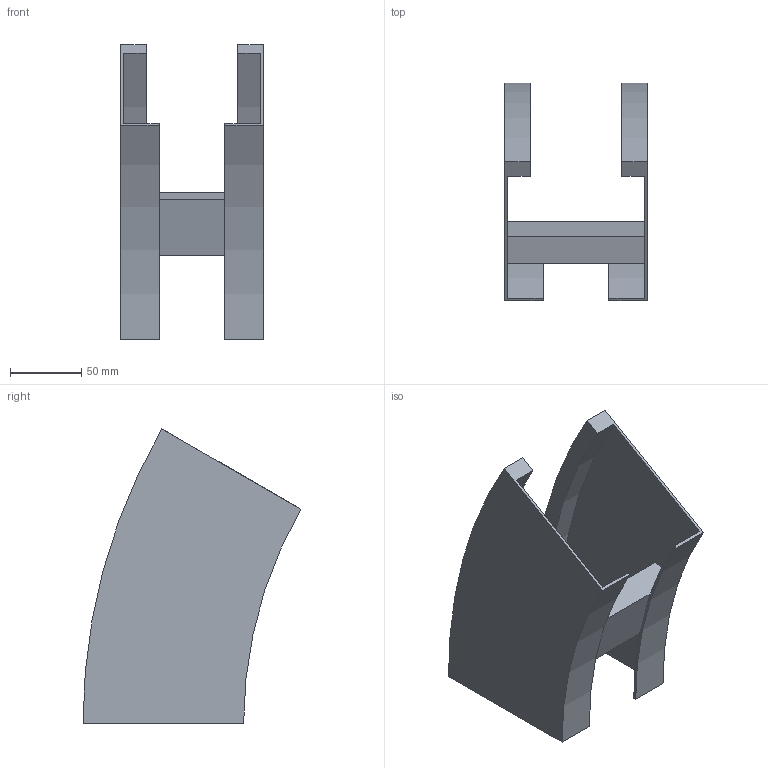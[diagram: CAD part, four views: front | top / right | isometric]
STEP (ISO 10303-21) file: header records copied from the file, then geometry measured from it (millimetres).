
FILE_DESCRIPTION (( 'STEP AP214' ), '1' );
FILE_NAME ('B2_35B3J100.step', '2025-02-21T14:48:24', ( '' ), ( '' ), 'SwSTEP 2.0', 'SolidWorks 2023', '' );
FILE_SCHEMA (( 'AUTOMOTIVE_DESIGN' ));
Length unit declared in the file: millimetre
Products named in the file (3): TRAVERSINO_100; B2_35B3J100; B2_LONGH.DISCESA_30°_H112.5_R300
Assembly tree (3 placements, depth 2):
  B2_35B3J100
    B2_LONGH.DISCESA_30°_H112.5_R300  x2
    TRAVERSINO_100
Bounding box: 100 x 152.69 x 206.25 mm (x, y, z)
Volume: 259191.4 mm3; surface area: 129918 mm2
Topology: 3 solids, 3 shells, 26 faces, 60 edges, 40 vertices
Faces by surface type: plane 18, cylinder 8
Entity records: 544 total; most frequent: DIRECTION 88, CARTESIAN_POINT 82, ORIENTED_EDGE 72, EDGE_CURVE 36, AXIS2_PLACEMENT_3D 30, VECTOR 28, LINE 28, VERTEX_POINT 24
